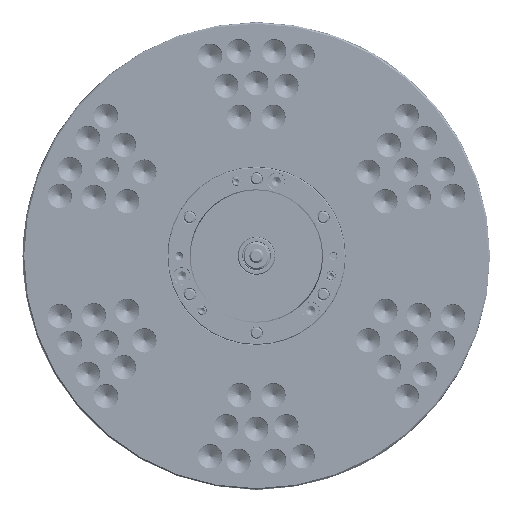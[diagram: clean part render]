
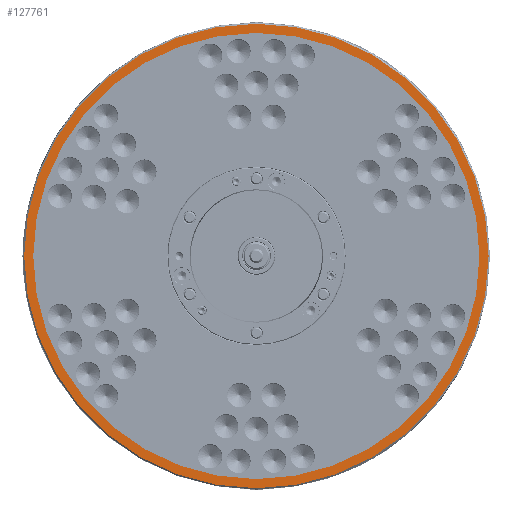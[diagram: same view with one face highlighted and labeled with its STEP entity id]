
A CAD part, left-side view. The second image highlights one B-rep face of the part: STEP entity #127761.
In plain terms, the highlighted planar face has unit normal (-1, 0, 0).
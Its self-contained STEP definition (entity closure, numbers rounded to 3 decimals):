
#4561 = DIRECTION ( 'NONE',  ( 0., 0., 1. ) ) ;
#13954 = DIRECTION ( 'NONE',  ( -1., 0., 0. ) ) ;
#23891 = DIRECTION ( 'NONE',  ( -1., 0., 0. ) ) ;
#29983 = EDGE_CURVE ( 'NONE', #150051, #339396, #83119, .T. ) ;
#38500 = CARTESIAN_POINT ( 'NONE',  ( -127., 0., 477.5 ) ) ;
#41810 = FACE_BOUND ( 'NONE', #184687, .T. ) ;
#44106 = EDGE_CURVE ( 'NONE', #327816, #350465, #57040, .T. ) ;
#57040 = CIRCLE ( 'NONE', #262947, 477.5 ) ;
#60951 = CARTESIAN_POINT ( 'NONE',  ( -127., 0., 497. ) ) ;
#77174 = AXIS2_PLACEMENT_3D ( 'NONE', #273562, #13954, #156051 ) ;
#78802 = CARTESIAN_POINT ( 'NONE',  ( -127., 0., 0. ) ) ;
#83119 = CIRCLE ( 'NONE', #77174, 497. ) ;
#84393 = DIRECTION ( 'NONE',  ( 0., 0., 1. ) ) ;
#93530 = CARTESIAN_POINT ( 'NONE',  ( -127., 0., 0. ) ) ;
#105248 = CIRCLE ( 'NONE', #153642, 497. ) ;
#114170 = CARTESIAN_POINT ( 'NONE',  ( -127., 0., -497. ) ) ;
#116624 = CARTESIAN_POINT ( 'NONE',  ( -127., 0., 0. ) ) ;
#127761 = ADVANCED_FACE ( 'NONE', ( #41810, #303305 ), #373131, .F. ) ;
#137202 = AXIS2_PLACEMENT_3D ( 'NONE', #78802, #165926, #84393 ) ;
#150051 = VERTEX_POINT ( 'NONE', #60951 ) ;
#153642 = AXIS2_PLACEMENT_3D ( 'NONE', #116624, #23891, #232217 ) ;
#156051 = DIRECTION ( 'NONE',  ( 0., 0., 1. ) ) ;
#165926 = DIRECTION ( 'NONE',  ( -1., 0., 0. ) ) ;
#184687 = EDGE_LOOP ( 'NONE', ( #264519, #252592 ) ) ;
#209936 = CIRCLE ( 'NONE', #137202, 477.5 ) ;
#225454 = DIRECTION ( 'NONE',  ( 1., 0., 0. ) ) ;
#232217 = DIRECTION ( 'NONE',  ( 0., 0., 1. ) ) ;
#241988 = EDGE_CURVE ( 'NONE', #350465, #327816, #209936, .T. ) ;
#252592 = ORIENTED_EDGE ( 'NONE', *, *, #44106, .F. ) ;
#252695 = EDGE_LOOP ( 'NONE', ( #326599, #255382 ) ) ;
#255382 = ORIENTED_EDGE ( 'NONE', *, *, #29983, .T. ) ;
#262947 = AXIS2_PLACEMENT_3D ( 'NONE', #93530, #324676, #4561 ) ;
#264519 = ORIENTED_EDGE ( 'NONE', *, *, #241988, .F. ) ;
#273562 = CARTESIAN_POINT ( 'NONE',  ( -127., 0., 0. ) ) ;
#303305 = FACE_OUTER_BOUND ( 'NONE', #252695, .T. ) ;
#308862 = CARTESIAN_POINT ( 'NONE',  ( -127., 497., 0. ) ) ;
#324676 = DIRECTION ( 'NONE',  ( -1., 0., 0. ) ) ;
#326599 = ORIENTED_EDGE ( 'NONE', *, *, #332226, .T. ) ;
#327816 = VERTEX_POINT ( 'NONE', #366068 ) ;
#332226 = EDGE_CURVE ( 'NONE', #339396, #150051, #105248, .T. ) ;
#339396 = VERTEX_POINT ( 'NONE', #114170 ) ;
#341004 = DIRECTION ( 'NONE',  ( 0., 0., -1. ) ) ;
#345622 = AXIS2_PLACEMENT_3D ( 'NONE', #308862, #225454, #341004 ) ;
#350465 = VERTEX_POINT ( 'NONE', #38500 ) ;
#366068 = CARTESIAN_POINT ( 'NONE',  ( -127., 0., -477.5 ) ) ;
#373131 = PLANE ( 'NONE',  #345622 ) ;
